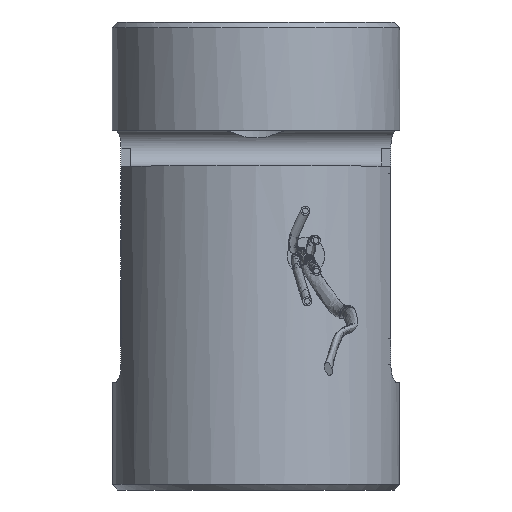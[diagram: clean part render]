
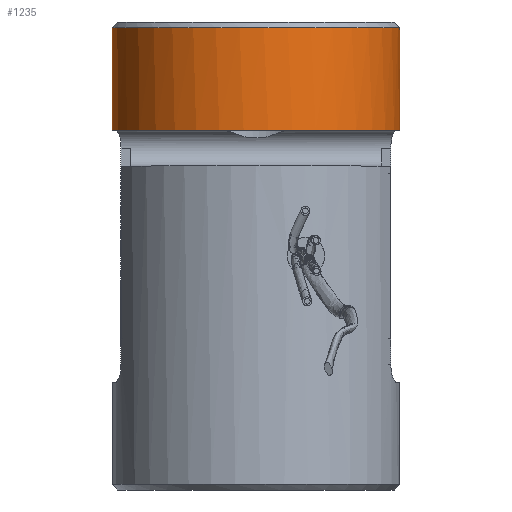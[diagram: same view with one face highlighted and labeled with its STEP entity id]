
A CAD part, left-side view. The second image highlights one B-rep face of the part: STEP entity #1235.
In plain terms, the highlighted cylindrical face has radius 12.7 mm (diameter 25.4 mm), a full revolution.
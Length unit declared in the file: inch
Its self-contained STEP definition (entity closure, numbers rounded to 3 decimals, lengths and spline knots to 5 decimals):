
#13 = CARTESIAN_POINT ( 'NONE',  ( 0.175, -0.46837, -1.625 ) ) ;
#36 = AXIS2_PLACEMENT_3D ( 'NONE', #1418, #1166, #1994 ) ;
#40 = CARTESIAN_POINT ( 'NONE',  ( 0.1287, -0.48321, -0.37659 ) ) ;
#51 = CARTESIAN_POINT ( 'NONE',  ( 0.175, 0.46837, -0.43328 ) ) ;
#89 = CARTESIAN_POINT ( 'NONE',  ( 0.175, -0.46837, -0.42906 ) ) ;
#122 = DIRECTION ( 'NONE',  ( 0., 0., 1. ) ) ;
#138 = CARTESIAN_POINT ( 'NONE',  ( 0., 0., -1.125 ) ) ;
#220 = VERTEX_POINT ( 'NONE', #1761 ) ;
#238 = CARTESIAN_POINT ( 'NONE',  ( 0.1166, 0.48623, -0.375 ) ) ;
#270 = CARTESIAN_POINT ( 'NONE',  ( 0.15344, -0.47588, -0.39011 ) ) ;
#287 = AXIS2_PLACEMENT_3D ( 'NONE', #138, #122, #980 ) ;
#295 = EDGE_CURVE ( 'NONE', #2714, #609, #2362, .T. ) ;
#323 = EDGE_CURVE ( 'NONE', #2250, #220, #2259, .T. ) ;
#345 = CARTESIAN_POINT ( 'NONE',  ( 0., -0.5, -0.02 ) ) ;
#346 = VERTEX_POINT ( 'NONE', #1387 ) ;
#398 = LINE ( 'NONE', #2472, #2403 ) ;
#433 = CARTESIAN_POINT ( 'NONE',  ( 0.13252, 0.48213, -0.37816 ) ) ;
#447 = CARTESIAN_POINT ( 'NONE',  ( 0.1286, 0.4832, -0.37697 ) ) ;
#491 = CARTESIAN_POINT ( 'NONE',  ( 0.1125, -0.48718, -0.375 ) ) ;
#505 = EDGE_LOOP ( 'NONE', ( #962 ) ) ;
#514 = DIRECTION ( 'NONE',  ( 0., 1., 0. ) ) ;
#537 = FACE_OUTER_BOUND ( 'NONE', #505, .T. ) ;
#582 = ORIENTED_EDGE ( 'NONE', *, *, #1955, .T. ) ;
#605 = CARTESIAN_POINT ( 'NONE',  ( 0.175, -0.46837, -0.4375 ) ) ;
#609 = VERTEX_POINT ( 'NONE', #1961 ) ;
#618 = CARTESIAN_POINT ( 'NONE',  ( 0.17293, 0.46914, -0.42102 ) ) ;
#624 = LINE ( 'NONE', #13, #1736 ) ;
#696 = CARTESIAN_POINT ( 'NONE',  ( 0.12071, -0.48528, -0.375 ) ) ;
#734 = FACE_OUTER_BOUND ( 'NONE', #1005, .T. ) ;
#767 = VERTEX_POINT ( 'NONE', #605 ) ;
#842 = CARTESIAN_POINT ( 'NONE',  ( 0.17168, 0.4696, -0.41699 ) ) ;
#848 = DIRECTION ( 'NONE',  ( 0., 0., -1. ) ) ;
#855 = CARTESIAN_POINT ( 'NONE',  ( 0.16213, 0.47302, -0.39866 ) ) ;
#875 = CARTESIAN_POINT ( 'NONE',  ( 0.175, 0.46837, -0.4375 ) ) ;
#893 = CARTESIAN_POINT ( 'NONE',  ( 0.16845, -0.47077, -0.40935 ) ) ;
#950 = EDGE_CURVE ( 'NONE', #220, #346, #398, .T. ) ;
#962 = ORIENTED_EDGE ( 'NONE', *, *, #2336, .T. ) ;
#980 = DIRECTION ( 'NONE',  ( -1., 0., 0. ) ) ;
#1005 = EDGE_LOOP ( 'NONE', ( #2238, #2694, #2434, #1408, #1031, #582 ) ) ;
#1031 = ORIENTED_EDGE ( 'NONE', *, *, #950, .T. ) ;
#1080 = CARTESIAN_POINT ( 'NONE',  ( 0.1125, 0.48718, -0.375 ) ) ;
#1137 = CARTESIAN_POINT ( 'NONE',  ( 0.175, -0.46837, -0.4375 ) ) ;
#1166 = DIRECTION ( 'NONE',  ( 0., 0., -1. ) ) ;
#1209 = DIRECTION ( 'NONE',  ( 0., 0., 1. ) ) ;
#1235 = ADVANCED_FACE ( 'NONE', ( #537, #734 ), #2377, .T. ) ;
#1244 = CARTESIAN_POINT ( 'NONE',  ( 0.15059, 0.47682, -0.38729 ) ) ;
#1272 = CARTESIAN_POINT ( 'NONE',  ( 0.17458, 0.46853, -0.42915 ) ) ;
#1283 = B_SPLINE_CURVE_WITH_KNOTS ( 'NONE', 3,
 ( #491, #696, #40, #1712, #2604, #1326, #270, #1510, #2554, #2166, #893, #2348, #89, #1137 ),
 .UNSPECIFIED., .F., .F.,
 ( 4, 2, 2, 2, 2, 2, 4 ),
 ( 0., 0.00063, 0.00095, 0.00127, 0.00158, 0.0019, 0.00253 ),
 .UNSPECIFIED. ) ;
#1288 = CARTESIAN_POINT ( 'NONE',  ( 0.12064, 0.48524, -0.3754 ) ) ;
#1326 = CARTESIAN_POINT ( 'NONE',  ( 0.15024, -0.47691, -0.38752 ) ) ;
#1387 = CARTESIAN_POINT ( 'NONE',  ( 0.175, 0.46837, -0.4375 ) ) ;
#1392 = VERTEX_POINT ( 'NONE', #345 ) ;
#1408 = ORIENTED_EDGE ( 'NONE', *, *, #323, .T. ) ;
#1418 = CARTESIAN_POINT ( 'NONE',  ( 0., 0., -0.02 ) ) ;
#1432 = CIRCLE ( 'NONE', #36, 0.5 ) ;
#1510 = CARTESIAN_POINT ( 'NONE',  ( 0.15923, -0.47398, -0.3958 ) ) ;
#1523 = AXIS2_PLACEMENT_3D ( 'NONE', #1790, #2387, #514 ) ;
#1712 = CARTESIAN_POINT ( 'NONE',  ( 0.13995, -0.48003, -0.3812 ) ) ;
#1736 = VECTOR ( 'NONE', #848, 39.37008 ) ;
#1761 = CARTESIAN_POINT ( 'NONE',  ( 0.175, 0.46837, -1.125 ) ) ;
#1771 = B_SPLINE_CURVE_WITH_KNOTS ( 'NONE', 3,
 ( #875, #51, #1272, #618, #842, #2520, #855, #1244, #2330, #433, #447, #1288, #238, #1080 ),
 .UNSPECIFIED., .F., .F.,
 ( 4, 2, 2, 2, 2, 2, 4 ),
 ( 0., 0.00032, 0.00063, 0.00127, 0.0019, 0.00222, 0.00253 ),
 .UNSPECIFIED. ) ;
#1790 = CARTESIAN_POINT ( 'NONE',  ( 0., 0., -1.625 ) ) ;
#1955 = EDGE_CURVE ( 'NONE', #346, #2714, #1771, .T. ) ;
#1961 = CARTESIAN_POINT ( 'NONE',  ( 0.1125, -0.48718, -0.375 ) ) ;
#1994 = DIRECTION ( 'NONE',  ( 0., -1., 0. ) ) ;
#2035 = EDGE_CURVE ( 'NONE', #767, #2250, #624, .T. ) ;
#2166 = CARTESIAN_POINT ( 'NONE',  ( 0.16645, -0.47149, -0.40568 ) ) ;
#2207 = DIRECTION ( 'NONE',  ( 0., 0., 1. ) ) ;
#2238 = ORIENTED_EDGE ( 'NONE', *, *, #295, .T. ) ;
#2250 = VERTEX_POINT ( 'NONE', #2378 ) ;
#2259 = CIRCLE ( 'NONE', #287, 0.5 ) ;
#2330 = CARTESIAN_POINT ( 'NONE',  ( 0.14369, 0.47897, -0.38274 ) ) ;
#2336 = EDGE_CURVE ( 'NONE', #1392, #1392, #1432, .T. ) ;
#2348 = CARTESIAN_POINT ( 'NONE',  ( 0.17326, -0.46903, -0.42072 ) ) ;
#2362 = CIRCLE ( 'NONE', #2532, 0.5 ) ;
#2377 = CYLINDRICAL_SURFACE ( 'NONE', #1523, 0.5 ) ;
#2378 = CARTESIAN_POINT ( 'NONE',  ( 0.175, -0.46837, -1.125 ) ) ;
#2387 = DIRECTION ( 'NONE',  ( 0., 0., 1. ) ) ;
#2403 = VECTOR ( 'NONE', #1209, 39.37008 ) ;
#2414 = CARTESIAN_POINT ( 'NONE',  ( 0., 0., -0.375 ) ) ;
#2417 = CARTESIAN_POINT ( 'NONE',  ( 0.1125, 0.48718, -0.375 ) ) ;
#2434 = ORIENTED_EDGE ( 'NONE', *, *, #2035, .T. ) ;
#2472 = CARTESIAN_POINT ( 'NONE',  ( 0.175, 0.46837, -1.625 ) ) ;
#2520 = CARTESIAN_POINT ( 'NONE',  ( 0.16686, 0.47135, -0.40557 ) ) ;
#2532 = AXIS2_PLACEMENT_3D ( 'NONE', #2414, #2207, #2656 ) ;
#2554 = CARTESIAN_POINT ( 'NONE',  ( 0.16183, -0.47309, -0.39891 ) ) ;
#2604 = CARTESIAN_POINT ( 'NONE',  ( 0.1435, -0.47898, -0.38308 ) ) ;
#2612 = EDGE_CURVE ( 'NONE', #609, #767, #1283, .T. ) ;
#2656 = DIRECTION ( 'NONE',  ( 0., 1., 0. ) ) ;
#2694 = ORIENTED_EDGE ( 'NONE', *, *, #2612, .T. ) ;
#2714 = VERTEX_POINT ( 'NONE', #2417 ) ;
